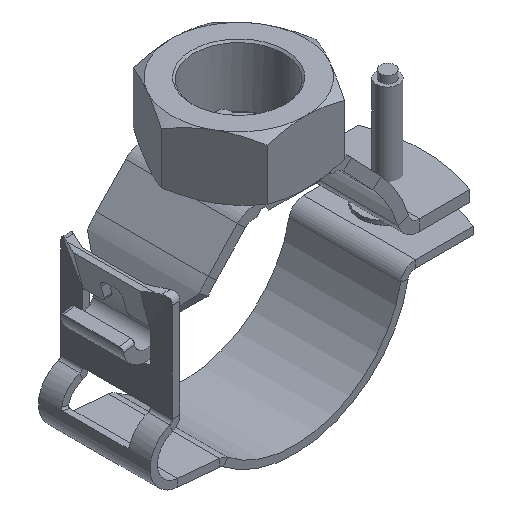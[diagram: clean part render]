
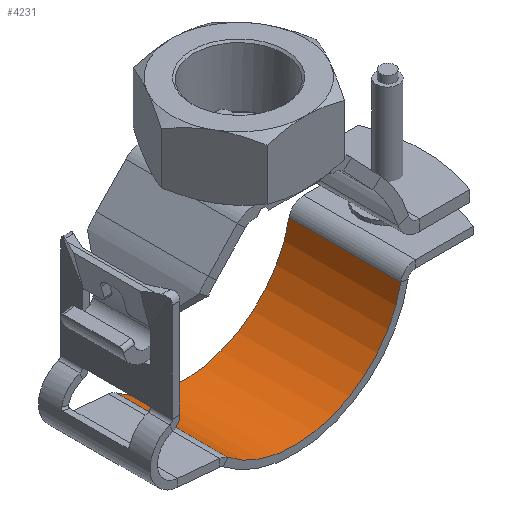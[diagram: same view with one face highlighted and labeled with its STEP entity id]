
A CAD part, isometric view. The second image highlights one B-rep face of the part: STEP entity #4231.
In plain terms, the highlighted cylindrical face has radius 29 mm (diameter 58 mm), a partial arc.
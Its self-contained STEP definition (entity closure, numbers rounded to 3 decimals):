
#170=CIRCLE('',#4538,29.);
#171=CIRCLE('',#4539,29.);
#306=CYLINDRICAL_SURFACE('',#4537,29.);
#414=FACE_OUTER_BOUND('',#655,.T.);
#655=EDGE_LOOP('',(#2787,#2788,#2789,#2790));
#953=LINE('',#6675,#1313);
#957=LINE('',#6689,#1317);
#1313=VECTOR('',#5107,1.);
#1317=VECTOR('',#5123,1.);
#1677=VERTEX_POINT('',#6673);
#1678=VERTEX_POINT('',#6674);
#1681=VERTEX_POINT('',#6685);
#1682=VERTEX_POINT('',#6687);
#2096=EDGE_CURVE('',#1677,#1678,#953,.F.);
#2102=EDGE_CURVE('',#1678,#1681,#170,.T.);
#2103=EDGE_CURVE('',#1677,#1682,#171,.T.);
#2104=EDGE_CURVE('',#1682,#1681,#957,.F.);
#2787=ORIENTED_EDGE('',*,*,#2102,.F.);
#2788=ORIENTED_EDGE('',*,*,#2096,.F.);
#2789=ORIENTED_EDGE('',*,*,#2103,.T.);
#2790=ORIENTED_EDGE('',*,*,#2104,.T.);
#4231=ADVANCED_FACE('',(#414),#306,.F.);
#4537=AXIS2_PLACEMENT_3D('',#6684,#5117,#5118);
#4538=AXIS2_PLACEMENT_3D('',#6686,#5119,#5120);
#4539=AXIS2_PLACEMENT_3D('',#6688,#5121,#5122);
#5107=DIRECTION('',(0.,-1.,0.));
#5117=DIRECTION('center_axis',(0.,-1.,0.));
#5118=DIRECTION('ref_axis',(0.353,0.,-0.936));
#5119=DIRECTION('center_axis',(0.,-1.,0.));
#5120=DIRECTION('ref_axis',(-1.,0.,0.));
#5121=DIRECTION('center_axis',(0.,-1.,0.));
#5122=DIRECTION('ref_axis',(-1.,0.,0.));
#5123=DIRECTION('',(0.,-1.,0.));
#6673=CARTESIAN_POINT('',(-17.916,-15.,-22.804));
#6674=CARTESIAN_POINT('',(-17.916,15.,-22.804));
#6675=CARTESIAN_POINT('',(-17.916,0.,-22.804));
#6684=CARTESIAN_POINT('Origin',(0.,-0.511,0.));
#6685=CARTESIAN_POINT('',(28.517,15.,-5.273));
#6686=CARTESIAN_POINT('Origin',(0.,15.,0.));
#6687=CARTESIAN_POINT('',(28.517,-15.,-5.273));
#6688=CARTESIAN_POINT('Origin',(0.,-15.,0.));
#6689=CARTESIAN_POINT('',(28.517,0.,-5.273));
